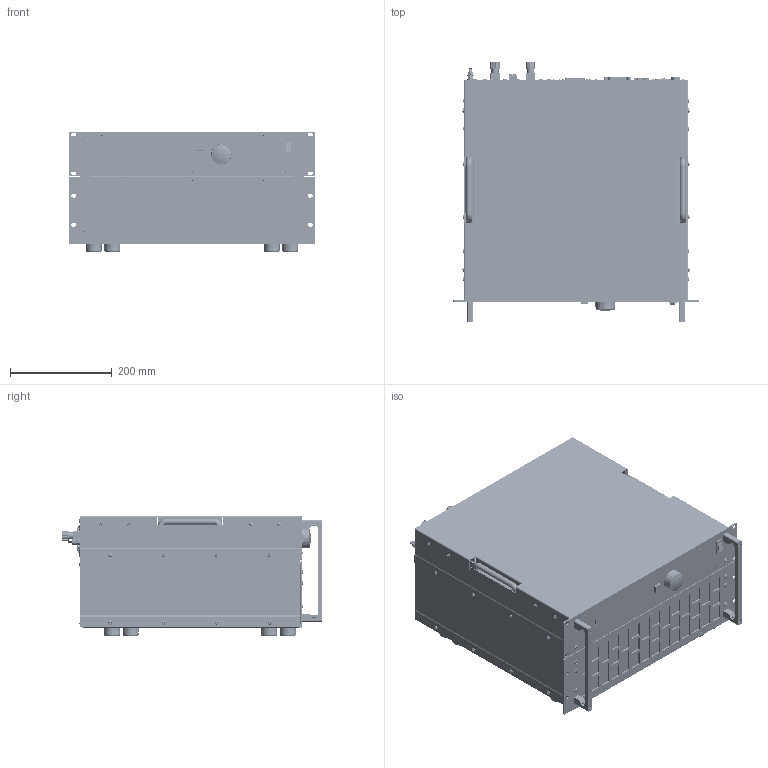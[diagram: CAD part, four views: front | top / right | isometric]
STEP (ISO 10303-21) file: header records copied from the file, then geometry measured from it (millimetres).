
FILE_DESCRIPTION(('STEP AP214'),'1');
FILE_NAME('QL_M12_5HE_BPK4_60_L_10_3D_01.step','2021-11-30T09:01:18',(' '),(' '),'Spatial InterOp 3D',' ',' ');
FILE_SCHEMA(('AUTOMOTIVE_DESIGN { 1 0 10303 214 1 1 1 1 }'));
Length unit declared in the file: millimetre
Products named in the file (35): 3HE_Leistungsteil_mit_Gummifüssen_3D_01; *U557; *U558; *U559; *U568; AutoCreatedBlock_3359; Steuereinheit_BPK4_60L_mit_BG441_3D_01; 2121_Steuerteil_modular_Seitenteil_links_3D_02; 2122_Steuerteil_modular_Seitenteil_rechts_3D_02; A$C5EF2ED09; 3xM2.5_5x5x12; AutoCreatedBlock_3395; A$C6092449D; Frontplatte_5HE_Steuerteil_mit_Einbauten_3D; A$C60925E47; A$C60A76697; BG441_mit_MT1955_3D_01; *U258; AutoCreatedBlock_3407; 2246_QL Rückwand Steuerteil 5HE_mit_Einbauten_3D_01; *U219; *U220; *U221; AutoCreatedBlock_3411; 2257_QL_IO Panel Standard_3D_01; 2084_IO-Port Abdeckung_3D_01; *U626; *U627; *U628; *U629; *U630; AutoCreatedBlock_3385; DIN 966-A; AutoCreatedBlock_3355
Assembly tree (118 placements, depth 4):
  (unnamed)
    3HE_Leistungsteil_mit_Gummifüssen_3D_01
      *U557  x10
      *U558  x6
      *U559  x6
      *U568  x6
      AutoCreatedBlock_3359
    Steuereinheit_BPK4_60L_mit_BG441_3D_01
      2121_Steuerteil_modular_Seitenteil_links_3D_02
      2122_Steuerteil_modular_Seitenteil_rechts_3D_02
      A$C5EF2ED09
        3xM2.5_5x5x12  x2
        AutoCreatedBlock_3395
      A$C6092449D
      Frontplatte_5HE_Steuerteil_mit_Einbauten_3D
      A$C60925E47
      A$C60A76697
      BG441_mit_MT1955_3D_01
        *U258  x2
        AutoCreatedBlock_3407
      2246_QL Rückwand Steuerteil 5HE_mit_Einbauten_3D_01
        *U219
        *U220  x2
        *U221  x3
        AutoCreatedBlock_3411
      2257_QL_IO Panel Standard_3D_01
      2084_IO-Port Abdeckung_3D_01  x2
      *U626  x17
      *U627  x9
      *U628  x26
      *U629  x2
      *U630  x4
      AutoCreatedBlock_3385
    DIN 966-A  x2
    AutoCreatedBlock_3355
Bounding box: 482.6 x 511.97 x 237.87 mm (x, y, z)
Volume: 23996321.6 mm3; surface area: 3312485.9 mm2
Topology: 374 solids, 393 shells, 24478 faces, 59928 edges, 36984 vertices
Faces by surface type: plane 10381, cone 9637, cylinder 3508, torus 405, bspline 277, sphere 248, extrusion 22
Entity records: 771361 total; most frequent: CARTESIAN_POINT 145251, DIRECTION 100455, ORIENTED_EDGE 94794, EDGE_CURVE 47511, AXIS2_PLACEMENT_3D 34804, VECTOR 30847, LINE 30825, VERTEX_POINT 29295
